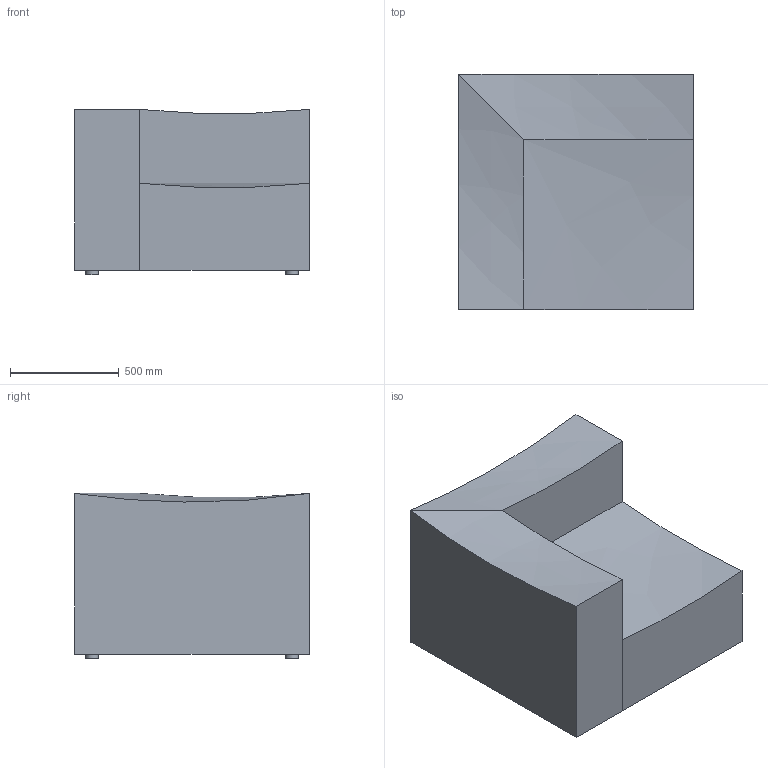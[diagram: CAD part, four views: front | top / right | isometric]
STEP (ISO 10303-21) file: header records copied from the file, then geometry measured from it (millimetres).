
FILE_DESCRIPTION(/* description */ (''),/* implementation_level */ '2;1');
FILE_NAME(/* name */ 'C6XUOU~L',/* time_stamp */ '2020-03-19T15:04:59+01:00',/* author */ (''),/* organization */ (''),/* preprocessor_version */ 'ST-DEVELOPER v16.5',/* originating_system */ '',/* authorisation */ '');
FILE_SCHEMA (('AUTOMOTIVE_DESIGN'));
Length unit declared in the file: millimetre
Products named in the file (1): Document
Bounding box: 1080 x 1080 x 760 mm (x, y, z)
Volume: 637042821.5 mm3; surface area: 7348252.4 mm2
Topology: 7 solids, 7 shells, 30 faces, 48 edges, 32 vertices
Faces by surface type: plane 23, bspline 7
Entity records: 852 total; most frequent: CARTESIAN_POINT 378, ORIENTED_EDGE 96, EDGE_CURVE 48, B_SPLINE_CURVE_WITH_KNOTS 36, VERTEX_POINT 32, ADVANCED_FACE 30, FACE_OUTER_BOUND 30, EDGE_LOOP 30
